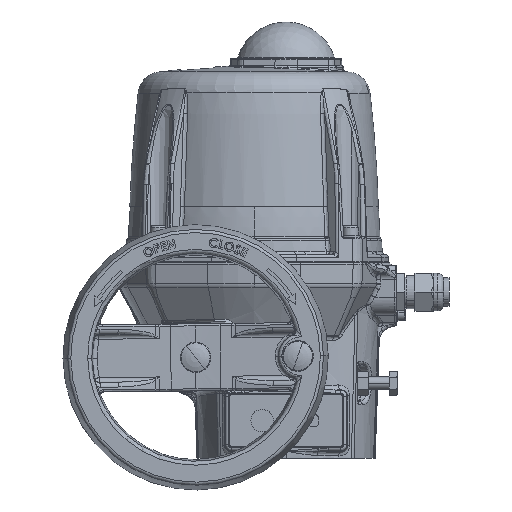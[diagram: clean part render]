
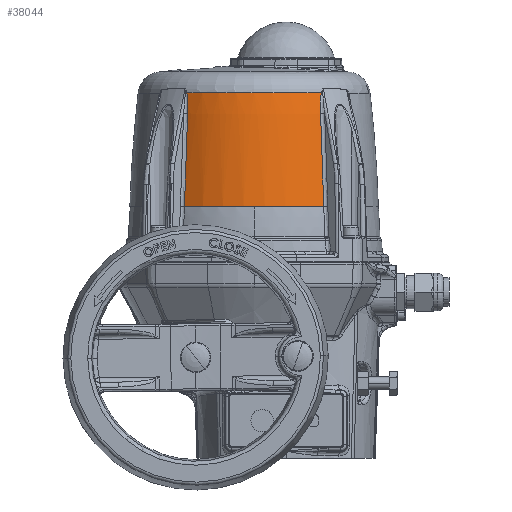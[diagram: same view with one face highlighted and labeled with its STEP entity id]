
A CAD part, top view. The second image highlights one B-rep face of the part: STEP entity #38044.
In plain terms, the highlighted toroidal (fillet/blend) face has major radius 830.547 mm and minor radius 908.797 mm.
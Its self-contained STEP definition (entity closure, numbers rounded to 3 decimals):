
#321 = B_SPLINE_CURVE_WITH_KNOTS ( 'NONE', 3,
 ( #62183, #86046, #9191, #70722, #16392, #47313 ),
 .UNSPECIFIED., .F., .F.,
 ( 4, 2, 4 ),
 ( 0., 0.029, 0.058 ),
 .UNSPECIFIED. ) ;
#868 = B_SPLINE_CURVE_WITH_KNOTS ( 'NONE', 3,
 ( #1025, #24205, #78502, #62796, #8128, #40119 ),
 .UNSPECIFIED., .F., .F.,
 ( 4, 2, 4 ),
 ( 0., 0.029, 0.058 ),
 .UNSPECIFIED. ) ;
#1025 = CARTESIAN_POINT ( 'NONE',  ( 43.575, 85.139, 64.39 ) ) ;
#4374 = CARTESIAN_POINT ( 'NONE',  ( -41.522, 144.084, 61.094 ) ) ;
#4628 = EDGE_CURVE ( 'NONE', #51864, #66258, #73769, .T. ) ;
#8128 = CARTESIAN_POINT ( 'NONE',  ( 42.137, 133.37, 61.937 ) ) ;
#8230 = EDGE_CURVE ( 'NONE', #66258, #63438, #321, .T. ) ;
#9191 = CARTESIAN_POINT ( 'NONE',  ( -42.579, 123.735, 62.583 ) ) ;
#11176 = CARTESIAN_POINT ( 'NONE',  ( -41.928, 155.435, 59.365 ) ) ;
#11866 = CARTESIAN_POINT ( 'NONE',  ( -41.585, 142.99, 61.18 ) ) ;
#12545 = AXIS2_PLACEMENT_3D ( 'NONE', #69495, #38593, #15530 ) ;
#13977 = CARTESIAN_POINT ( 'NONE',  ( 41.682, 153.856, 59.75 ) ) ;
#15530 = DIRECTION ( 'NONE',  ( -1., 0., 0. ) ) ;
#16336 = CIRCLE ( 'NONE', #71435, 77.748 ) ;
#16392 = CARTESIAN_POINT ( 'NONE',  ( -43.464, 94.798, 64.077 ) ) ;
#19028 = CARTESIAN_POINT ( 'NONE',  ( -41.475, 145.177, 60.996 ) ) ;
#22262 = EDGE_CURVE ( 'NONE', #63438, #39890, #16336, .T. ) ;
#23550 = EDGE_CURVE ( 'NONE', #51864, #53275, #75504, .T. ) ;
#24205 = CARTESIAN_POINT ( 'NONE',  ( 43.464, 94.798, 64.077 ) ) ;
#26295 = B_SPLINE_CURVE_WITH_KNOTS ( 'NONE', 3,
 ( #83642, #52998, #37074, #99646, #84314, #61753, #84629, #83967, #13977, #29925, #45228, #91463 ),
 .UNSPECIFIED., .F., .F.,
 ( 4, 2, 2, 2, 2, 4 ),
 ( 0., 0.003, 0.007, 0.01, 0.012, 0.013 ),
 .UNSPECIFIED. ) ;
#27182 = CARTESIAN_POINT ( 'NONE',  ( -41.625, 153.322, 59.861 ) ) ;
#29925 = CARTESIAN_POINT ( 'NONE',  ( 41.835, 154.913, 59.501 ) ) ;
#32249 = ORIENTED_EDGE ( 'NONE', *, *, #64120, .T. ) ;
#34949 = CARTESIAN_POINT ( 'NONE',  ( -42.057, 155.95, 59.202 ) ) ;
#35456 = CARTESIAN_POINT ( 'NONE',  ( 0., 85.139, 0. ) ) ;
#35639 = CARTESIAN_POINT ( 'NONE',  ( -41.488, 151.715, 60.168 ) ) ;
#36127 = DIRECTION ( 'NONE',  ( 0., 1., 0. ) ) ;
#37074 = CARTESIAN_POINT ( 'NONE',  ( 41.475, 145.177, 60.996 ) ) ;
#37328 = CARTESIAN_POINT ( 'NONE',  ( -42.057, 155.95, 59.202 ) ) ;
#37740 = CARTESIAN_POINT ( 'NONE',  ( -43.575, 85.139, 64.39 ) ) ;
#38044 = ADVANCED_FACE ( 'NONE', ( #84543 ), #45636, .T. ) ;
#38593 = DIRECTION ( 'NONE',  ( 0., 1., 0. ) ) ;
#39890 = VERTEX_POINT ( 'NONE', #99533 ) ;
#40119 = CARTESIAN_POINT ( 'NONE',  ( 41.585, 142.99, 61.18 ) ) ;
#42804 = CARTESIAN_POINT ( 'NONE',  ( -41.408, 148.452, 60.639 ) ) ;
#45228 = CARTESIAN_POINT ( 'NONE',  ( 41.928, 155.436, 59.364 ) ) ;
#45636 = TOROIDAL_SURFACE ( 'NONE', #12545, -830.547, 908.797 ) ;
#47313 = CARTESIAN_POINT ( 'NONE',  ( -43.575, 85.139, 64.39 ) ) ;
#50154 = ORIENTED_EDGE ( 'NONE', *, *, #94914, .T. ) ;
#51864 = VERTEX_POINT ( 'NONE', #37328 ) ;
#52065 = CARTESIAN_POINT ( 'NONE',  ( 42.057, 155.95, 59.202 ) ) ;
#52998 = CARTESIAN_POINT ( 'NONE',  ( 41.522, 144.084, 61.094 ) ) ;
#53275 = VERTEX_POINT ( 'NONE', #52065 ) ;
#53425 = AXIS2_PLACEMENT_3D ( 'NONE', #87310, #79118, #95131 ) ;
#54246 = CARTESIAN_POINT ( 'NONE',  ( 41.585, 142.99, 61.18 ) ) ;
#55700 = VERTEX_POINT ( 'NONE', #54246 ) ;
#58351 = CARTESIAN_POINT ( 'NONE',  ( -41.417, 147.361, 60.768 ) ) ;
#59857 = DIRECTION ( 'NONE',  ( 1., 0., 0. ) ) ;
#61753 = CARTESIAN_POINT ( 'NONE',  ( 41.443, 150.625, 60.339 ) ) ;
#62183 = CARTESIAN_POINT ( 'NONE',  ( -41.585, 142.99, 61.18 ) ) ;
#62796 = CARTESIAN_POINT ( 'NONE',  ( 42.579, 123.739, 62.583 ) ) ;
#63438 = VERTEX_POINT ( 'NONE', #37740 ) ;
#64120 = EDGE_CURVE ( 'NONE', #55700, #53275, #26295, .T. ) ;
#65475 = CARTESIAN_POINT ( 'NONE',  ( -41.834, 154.911, 59.501 ) ) ;
#66258 = VERTEX_POINT ( 'NONE', #78774 ) ;
#67751 = ORIENTED_EDGE ( 'NONE', *, *, #4628, .T. ) ;
#68836 = ORIENTED_EDGE ( 'NONE', *, *, #22262, .T. ) ;
#69495 = CARTESIAN_POINT ( 'NONE',  ( 0., 54.95, 0. ) ) ;
#70479 = ORIENTED_EDGE ( 'NONE', *, *, #8230, .T. ) ;
#70722 = CARTESIAN_POINT ( 'NONE',  ( -43.242, 104.449, 63.653 ) ) ;
#71435 = AXIS2_PLACEMENT_3D ( 'NONE', #35456, #36127, #59857 ) ;
#73769 = B_SPLINE_CURVE_WITH_KNOTS ( 'NONE', 3,
 ( #34949, #11176, #65475, #97550, #27182, #35639, #90046, #42804, #58351, #19028, #4374, #11866 ),
 .UNSPECIFIED., .F., .F.,
 ( 4, 2, 2, 2, 2, 4 ),
 ( 0., 0.002, 0.003, 0.007, 0.01, 0.013 ),
 .UNSPECIFIED. ) ;
#75504 = CIRCLE ( 'NONE', #53425, 72.62 ) ;
#78502 = CARTESIAN_POINT ( 'NONE',  ( 43.242, 104.453, 63.653 ) ) ;
#78774 = CARTESIAN_POINT ( 'NONE',  ( -41.585, 142.99, 61.18 ) ) ;
#79118 = DIRECTION ( 'NONE',  ( 0., 1., 0. ) ) ;
#83642 = CARTESIAN_POINT ( 'NONE',  ( 41.585, 142.99, 61.18 ) ) ;
#83967 = CARTESIAN_POINT ( 'NONE',  ( 41.625, 153.323, 59.861 ) ) ;
#84314 = CARTESIAN_POINT ( 'NONE',  ( 41.408, 148.449, 60.639 ) ) ;
#84543 = FACE_OUTER_BOUND ( 'NONE', #96970, .T. ) ;
#84629 = CARTESIAN_POINT ( 'NONE',  ( 41.488, 151.713, 60.168 ) ) ;
#86046 = CARTESIAN_POINT ( 'NONE',  ( -42.137, 133.37, 61.937 ) ) ;
#87310 = CARTESIAN_POINT ( 'NONE',  ( 0., 155.95, 0. ) ) ;
#90046 = CARTESIAN_POINT ( 'NONE',  ( -41.443, 150.63, 60.338 ) ) ;
#91463 = CARTESIAN_POINT ( 'NONE',  ( 42.057, 155.95, 59.202 ) ) ;
#94914 = EDGE_CURVE ( 'NONE', #39890, #55700, #868, .T. ) ;
#95131 = DIRECTION ( 'NONE',  ( -1., 0., 0. ) ) ;
#96970 = EDGE_LOOP ( 'NONE', ( #99742, #67751, #70479, #68836, #50154, #32249 ) ) ;
#97550 = CARTESIAN_POINT ( 'NONE',  ( -41.682, 153.855, 59.75 ) ) ;
#99533 = CARTESIAN_POINT ( 'NONE',  ( 43.575, 85.139, 64.39 ) ) ;
#99646 = CARTESIAN_POINT ( 'NONE',  ( 41.417, 147.359, 60.768 ) ) ;
#99742 = ORIENTED_EDGE ( 'NONE', *, *, #23550, .F. ) ;
